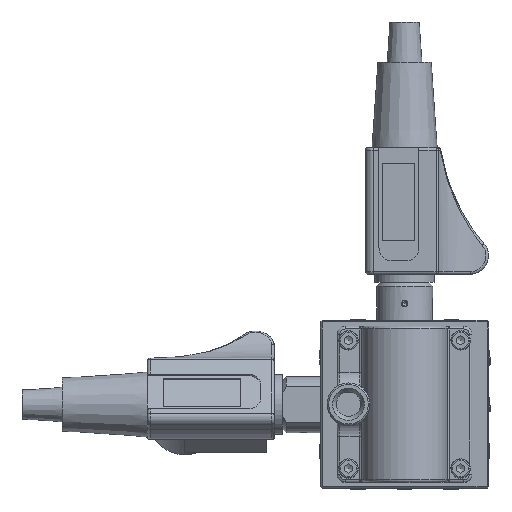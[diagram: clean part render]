
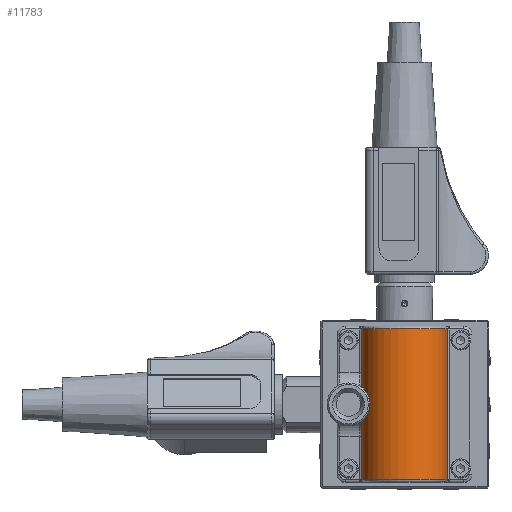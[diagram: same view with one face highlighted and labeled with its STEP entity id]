
A CAD part, top view. The second image highlights one B-rep face of the part: STEP entity #11783.
In plain terms, the highlighted cylindrical face has radius 16 mm (diameter 32 mm), a partial arc.
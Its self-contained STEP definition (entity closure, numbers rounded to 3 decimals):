
#570=B_SPLINE_CURVE_WITH_KNOTS('',3,(#24659,#24660,#24661,#24662,#24663,
#24664,#24665,#24666,#24667,#24668),.UNSPECIFIED.,.F.,.F.,(4,2,2,2,4),(0.154,
0.193,0.233,0.271,0.309),
 .UNSPECIFIED.);
#571=B_SPLINE_CURVE_WITH_KNOTS('',3,(#24672,#24673,#24674,#24675,#24676,
#24677,#24678,#24679,#24680,#24681),.UNSPECIFIED.,.F.,.F.,(4,2,2,2,4),(0.,
0.038,0.075,0.115,0.155),
 .UNSPECIFIED.);
#1451=CIRCLE('',#13749,16.);
#1454=CIRCLE('',#13755,16.);
#1455=CIRCLE('',#13756,16.);
#1456=CIRCLE('',#13757,16.);
#1854=CYLINDRICAL_SURFACE('',#13754,16.);
#2324=FACE_OUTER_BOUND('',#3114,.T.);
#3114=EDGE_LOOP('',(#9898,#9899,#9900,#9901,#9902,#9903,#9904,#9905,#9906,
#9907));
#3940=LINE('',#24649,#4736);
#3943=LINE('',#24655,#4739);
#3944=LINE('',#24670,#4740);
#3945=LINE('',#24685,#4741);
#4736=VECTOR('',#16704,10.);
#4739=VECTOR('',#16709,10.);
#4740=VECTOR('',#16712,10.);
#4741=VECTOR('',#16715,10.);
#5761=VERTEX_POINT('',#24627);
#5762=VERTEX_POINT('',#24631);
#5764=VERTEX_POINT('',#24648);
#5766=VERTEX_POINT('',#24654);
#5767=VERTEX_POINT('',#24656);
#5768=VERTEX_POINT('',#24658);
#5769=VERTEX_POINT('',#24669);
#5770=VERTEX_POINT('',#24671);
#5771=VERTEX_POINT('',#24682);
#5772=VERTEX_POINT('',#24684);
#7204=EDGE_CURVE('',#5762,#5761,#1451,.T.);
#7207=EDGE_CURVE('',#5764,#5761,#3940,.T.);
#7210=EDGE_CURVE('',#5762,#5766,#3943,.T.);
#7211=EDGE_CURVE('',#5766,#5767,#1454,.T.);
#7212=EDGE_CURVE('',#5768,#5767,#570,.F.);
#7213=EDGE_CURVE('',#5768,#5769,#3944,.T.);
#7214=EDGE_CURVE('',#5770,#5769,#571,.F.);
#7215=EDGE_CURVE('',#5770,#5771,#1455,.T.);
#7216=EDGE_CURVE('',#5771,#5772,#3945,.T.);
#7217=EDGE_CURVE('',#5764,#5772,#1456,.T.);
#9898=ORIENTED_EDGE('',*,*,#7204,.F.);
#9899=ORIENTED_EDGE('',*,*,#7210,.T.);
#9900=ORIENTED_EDGE('',*,*,#7211,.T.);
#9901=ORIENTED_EDGE('',*,*,#7212,.F.);
#9902=ORIENTED_EDGE('',*,*,#7213,.T.);
#9903=ORIENTED_EDGE('',*,*,#7214,.F.);
#9904=ORIENTED_EDGE('',*,*,#7215,.T.);
#9905=ORIENTED_EDGE('',*,*,#7216,.T.);
#9906=ORIENTED_EDGE('',*,*,#7217,.F.);
#9907=ORIENTED_EDGE('',*,*,#7207,.T.);
#11783=ADVANCED_FACE('',(#2324),#1854,.T.);
#13749=AXIS2_PLACEMENT_3D('',#24642,#16694,#16695);
#13754=AXIS2_PLACEMENT_3D('',#24653,#16707,#16708);
#13755=AXIS2_PLACEMENT_3D('',#24657,#16710,#16711);
#13756=AXIS2_PLACEMENT_3D('',#24683,#16713,#16714);
#13757=AXIS2_PLACEMENT_3D('',#24686,#16716,#16717);
#16694=DIRECTION('center_axis',(0.,0.,1.));
#16695=DIRECTION('ref_axis',(-1.,-0.023,0.));
#16704=DIRECTION('',(0.,0.,1.));
#16707=DIRECTION('center_axis',(0.,0.,1.));
#16708=DIRECTION('ref_axis',(0.,1.,0.));
#16709=DIRECTION('',(0.,0.,-1.));
#16710=DIRECTION('center_axis',(0.,0.,1.));
#16711=DIRECTION('ref_axis',(0.,1.,0.));
#16712=DIRECTION('',(0.,0.,-1.));
#16713=DIRECTION('center_axis',(0.,0.,-1.));
#16714=DIRECTION('ref_axis',(0.,1.,0.));
#16715=DIRECTION('',(0.,0.,-1.));
#16716=DIRECTION('center_axis',(0.,0.,-1.));
#16717=DIRECTION('ref_axis',(-1.,-0.023,0.));
#24627=CARTESIAN_POINT('',(-107.922,51.696,57.5));
#24631=CARTESIAN_POINT('',(-108.672,83.678,57.5));
#24642=CARTESIAN_POINT('Origin',(-107.922,67.696,57.5));
#24648=CARTESIAN_POINT('',(-107.922,51.696,1.));
#24649=CARTESIAN_POINT('',(-107.922,51.696,0.));
#24653=CARTESIAN_POINT('Origin',(-107.922,67.696,0.));
#24654=CARTESIAN_POINT('',(-108.672,83.678,35.25));
#24655=CARTESIAN_POINT('',(-108.672,83.678,0.));
#24656=CARTESIAN_POINT('',(-112.922,82.894,35.25));
#24657=CARTESIAN_POINT('Origin',(-107.922,67.696,35.25));
#24658=CARTESIAN_POINT('',(-113.922,82.528,34.25));
#24659=CARTESIAN_POINT('Ctrl Pts',(-112.922,82.894,35.25));
#24660=CARTESIAN_POINT('Ctrl Pts',(-113.047,82.853,35.25));
#24661=CARTESIAN_POINT('Ctrl Pts',(-113.181,82.808,35.225));
#24662=CARTESIAN_POINT('Ctrl Pts',(-113.427,82.72,35.124));
#24663=CARTESIAN_POINT('Ctrl Pts',(-113.54,82.678,35.047));
#24664=CARTESIAN_POINT('Ctrl Pts',(-113.717,82.61,34.87));
#24665=CARTESIAN_POINT('Ctrl Pts',(-113.794,82.58,34.759));
#24666=CARTESIAN_POINT('Ctrl Pts',(-113.896,82.539,34.513));
#24667=CARTESIAN_POINT('Ctrl Pts',(-113.922,82.528,34.378));
#24668=CARTESIAN_POINT('Ctrl Pts',(-113.922,82.528,34.25));
#24669=CARTESIAN_POINT('',(-113.922,82.528,24.25));
#24670=CARTESIAN_POINT('',(-113.922,82.528,0.));
#24671=CARTESIAN_POINT('',(-112.922,82.894,23.25));
#24672=CARTESIAN_POINT('Ctrl Pts',(-113.922,82.528,24.25));
#24673=CARTESIAN_POINT('Ctrl Pts',(-113.922,82.528,24.125));
#24674=CARTESIAN_POINT('Ctrl Pts',(-113.897,82.538,23.992));
#24675=CARTESIAN_POINT('Ctrl Pts',(-113.797,82.578,23.748));
#24676=CARTESIAN_POINT('Ctrl Pts',(-113.723,82.608,23.638));
#24677=CARTESIAN_POINT('Ctrl Pts',(-113.548,82.674,23.459));
#24678=CARTESIAN_POINT('Ctrl Pts',(-113.434,82.717,23.38));
#24679=CARTESIAN_POINT('Ctrl Pts',(-113.185,82.806,23.276));
#24680=CARTESIAN_POINT('Ctrl Pts',(-113.049,82.853,23.25));
#24681=CARTESIAN_POINT('Ctrl Pts',(-112.922,82.894,23.25));
#24682=CARTESIAN_POINT('',(-108.672,83.678,23.25));
#24683=CARTESIAN_POINT('Origin',(-107.922,67.696,23.25));
#24684=CARTESIAN_POINT('',(-108.672,83.678,1.));
#24685=CARTESIAN_POINT('',(-108.672,83.678,0.));
#24686=CARTESIAN_POINT('Origin',(-107.922,67.696,1.));
